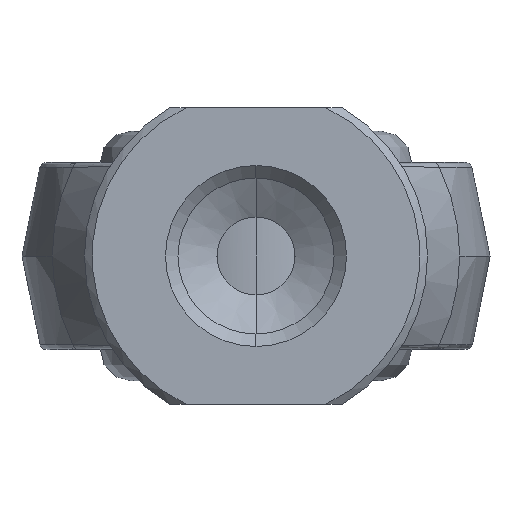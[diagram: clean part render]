
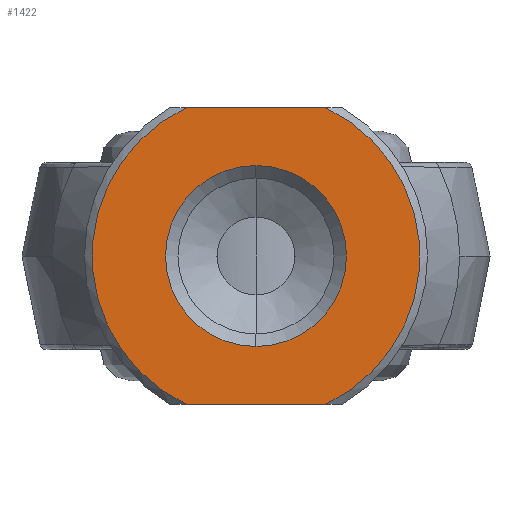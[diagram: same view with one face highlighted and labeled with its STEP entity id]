
A CAD part, left-side view. The second image highlights one B-rep face of the part: STEP entity #1422.
In plain terms, the highlighted planar face has unit normal (-1, 0, 0).
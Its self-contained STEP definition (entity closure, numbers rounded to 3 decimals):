
#7 = EDGE_CURVE ( 'NONE', #1909, #2552, #2097, .T. ) ;
#39 = EDGE_CURVE ( 'NONE', #1103, #2413, #2712, .T. ) ;
#90 = CARTESIAN_POINT ( 'NONE',  ( -62.711, 18.407, 11.087 ) ) ;
#130 = VECTOR ( 'NONE', #710, 1000. ) ;
#174 = CIRCLE ( 'NONE', #631, 10.5 ) ;
#308 = PLANE ( 'NONE',  #1046 ) ;
#325 = CIRCLE ( 'NONE', #2481, 5.8 ) ;
#344 = FACE_OUTER_BOUND ( 'NONE', #2722, .T. ) ;
#406 = ORIENTED_EDGE ( 'NONE', *, *, #39, .T. ) ;
#465 = ORIENTED_EDGE ( 'NONE', *, *, #1023, .T. ) ;
#468 = CARTESIAN_POINT ( 'NONE',  ( -62.711, 18.407, 14.787 ) ) ;
#473 = EDGE_CURVE ( 'NONE', #1924, #2413, #903, .T. ) ;
#482 = CARTESIAN_POINT ( 'NONE',  ( -62.711, 22.879, 30.087 ) ) ;
#520 = DIRECTION ( 'NONE',  ( 1., 0., 0. ) ) ;
#527 = LINE ( 'NONE', #1812, #130 ) ;
#612 = DIRECTION ( 'NONE',  ( -1., 0., 0. ) ) ;
#631 = AXIS2_PLACEMENT_3D ( 'NONE', #1931, #2135, #2740 ) ;
#710 = DIRECTION ( 'NONE',  ( 0., 1., 0. ) ) ;
#766 = EDGE_CURVE ( 'NONE', #1103, #2244, #174, .T. ) ;
#903 = CIRCLE ( 'NONE', #2524, 10.5 ) ;
#947 = CARTESIAN_POINT ( 'NONE',  ( -62.711, 18.407, 20.587 ) ) ;
#965 = DIRECTION ( 'NONE',  ( 0., -1., 0. ) ) ;
#1008 = FACE_BOUND ( 'NONE', #2547, .T. ) ;
#1023 = EDGE_CURVE ( 'NONE', #1924, #2244, #527, .T. ) ;
#1046 = AXIS2_PLACEMENT_3D ( 'NONE', #2757, #520, #2271 ) ;
#1103 = VERTEX_POINT ( 'NONE', #2367 ) ;
#1185 = AXIS2_PLACEMENT_3D ( 'NONE', #947, #2484, #2513 ) ;
#1336 = ORIENTED_EDGE ( 'NONE', *, *, #7, .F. ) ;
#1337 = DIRECTION ( 'NONE',  ( 1., 0., 0. ) ) ;
#1422 = ADVANCED_FACE ( 'NONE', ( #1008, #344 ), #308, .F. ) ;
#1495 = DIRECTION ( 'NONE',  ( 0., 0., 1. ) ) ;
#1564 = ORIENTED_EDGE ( 'NONE', *, *, #766, .F. ) ;
#1612 = ORIENTED_EDGE ( 'NONE', *, *, #473, .F. ) ;
#1705 = CARTESIAN_POINT ( 'NONE',  ( -62.711, 18.407, 20.587 ) ) ;
#1790 = DIRECTION ( 'NONE',  ( 0., 0., -1. ) ) ;
#1812 = CARTESIAN_POINT ( 'NONE',  ( -62.711, 18.407, 30.087 ) ) ;
#1909 = VERTEX_POINT ( 'NONE', #2373 ) ;
#1921 = CARTESIAN_POINT ( 'NONE',  ( -62.711, 13.935, 30.087 ) ) ;
#1924 = VERTEX_POINT ( 'NONE', #1921 ) ;
#1931 = CARTESIAN_POINT ( 'NONE',  ( -62.711, 18.407, 20.587 ) ) ;
#1948 = EDGE_CURVE ( 'NONE', #2552, #1909, #325, .T. ) ;
#2044 = CARTESIAN_POINT ( 'NONE',  ( -62.711, 18.407, 20.587 ) ) ;
#2050 = VECTOR ( 'NONE', #965, 1000. ) ;
#2097 = CIRCLE ( 'NONE', #1185, 5.8 ) ;
#2135 = DIRECTION ( 'NONE',  ( 1., 0., 0. ) ) ;
#2244 = VERTEX_POINT ( 'NONE', #482 ) ;
#2271 = DIRECTION ( 'NONE',  ( 0., 0., -1. ) ) ;
#2367 = CARTESIAN_POINT ( 'NONE',  ( -62.711, 22.879, 11.087 ) ) ;
#2373 = CARTESIAN_POINT ( 'NONE',  ( -62.711, 18.407, 26.387 ) ) ;
#2413 = VERTEX_POINT ( 'NONE', #2571 ) ;
#2481 = AXIS2_PLACEMENT_3D ( 'NONE', #1705, #612, #1495 ) ;
#2484 = DIRECTION ( 'NONE',  ( -1., 0., 0. ) ) ;
#2513 = DIRECTION ( 'NONE',  ( 0., 0., 1. ) ) ;
#2524 = AXIS2_PLACEMENT_3D ( 'NONE', #2044, #1337, #1790 ) ;
#2540 = ORIENTED_EDGE ( 'NONE', *, *, #1948, .F. ) ;
#2547 = EDGE_LOOP ( 'NONE', ( #1336, #2540 ) ) ;
#2552 = VERTEX_POINT ( 'NONE', #468 ) ;
#2571 = CARTESIAN_POINT ( 'NONE',  ( -62.711, 13.935, 11.087 ) ) ;
#2712 = LINE ( 'NONE', #90, #2050 ) ;
#2722 = EDGE_LOOP ( 'NONE', ( #1612, #465, #1564, #406 ) ) ;
#2740 = DIRECTION ( 'NONE',  ( 0., 0., -1. ) ) ;
#2757 = CARTESIAN_POINT ( 'NONE',  ( -62.711, 7.781, 30.087 ) ) ;
